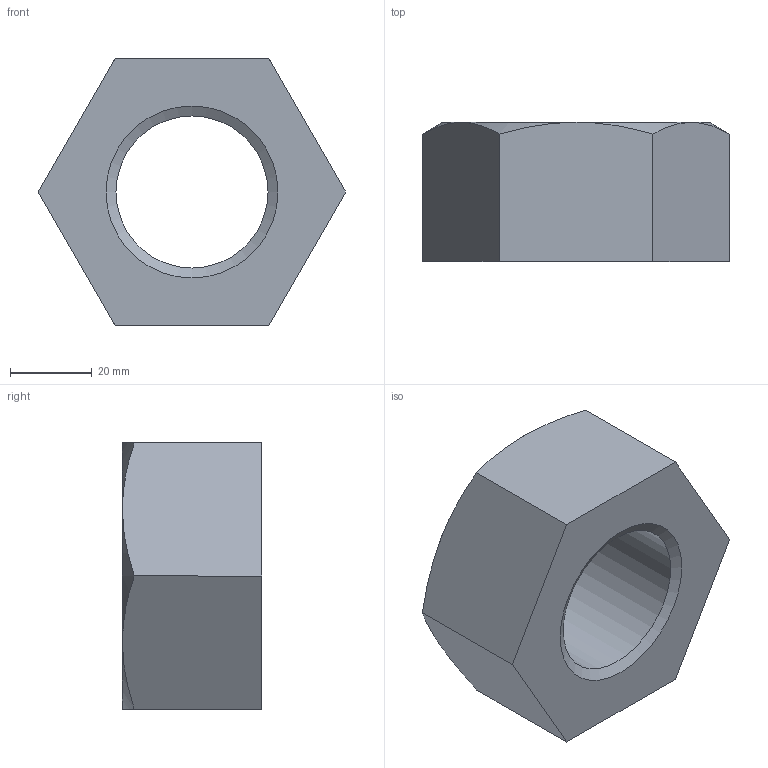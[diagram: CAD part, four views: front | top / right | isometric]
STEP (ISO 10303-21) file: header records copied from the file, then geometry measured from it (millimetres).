
FILE_DESCRIPTION(/* description */ (''),/* implementation_level */ '2;1');
FILE_NAME(/* name */ 'C:\Users\unitec\Desktop\ナット1種 中\M42.stp',/* time_stamp */ '2014-05-08T16:47:25+09:00',/* author */ ('unitec'),/* organization */ (''),/* preprocessor_version */ 'ST-DEVELOPER v15.2',/* originating_system */ 'Autodesk Inventor 2014',/* authorisation */ '');
FILE_SCHEMA (('AUTOMOTIVE_DESIGN { 1 0 10303 214 3 1 1 }'));
Length unit declared in the file: millimetre
Products named in the file (1): M42
Bounding box: 75.06 x 34 x 65 mm (x, y, z)
Volume: 86877 mm3; surface area: 16368.2 mm2
Topology: 1 solids, 1 shells, 17 faces, 37 edges, 22 vertices
Faces by surface type: cone 8, plane 8, cylinder 1
Full cylindrical faces by diameter (mm): 37.129 x1
Entity records: 455 total; most frequent: CARTESIAN_POINT 98, ORIENTED_EDGE 68, DIRECTION 68, EDGE_CURVE 34, AXIS2_PLACEMENT_3D 28, EDGE_LOOP 22, VERTEX_POINT 22, ADVANCED_FACE 17
